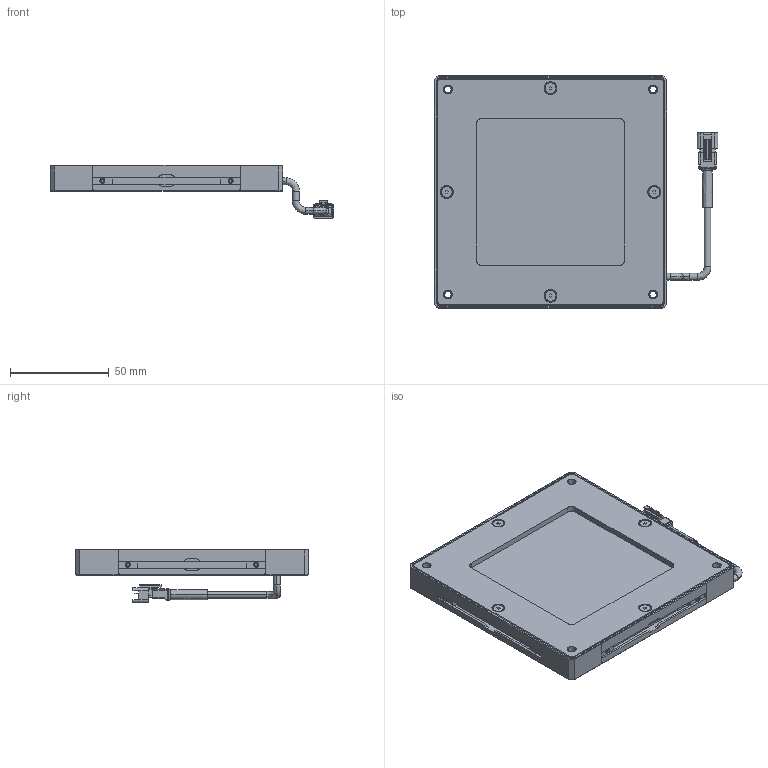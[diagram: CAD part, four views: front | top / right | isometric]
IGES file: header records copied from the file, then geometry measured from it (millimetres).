
Start section: SolidWorks IGES file using NURBS representation for surfaces
Bounding box: 143.85 x 118 x 27.1 mm (x, y, z)
Surface area: 46362.7 mm2 (no closed solid volume)
Topology: 0 solids, 0 shells, 488 faces, 4401 edges, 4401 vertices
Faces by surface type: bspline 488
